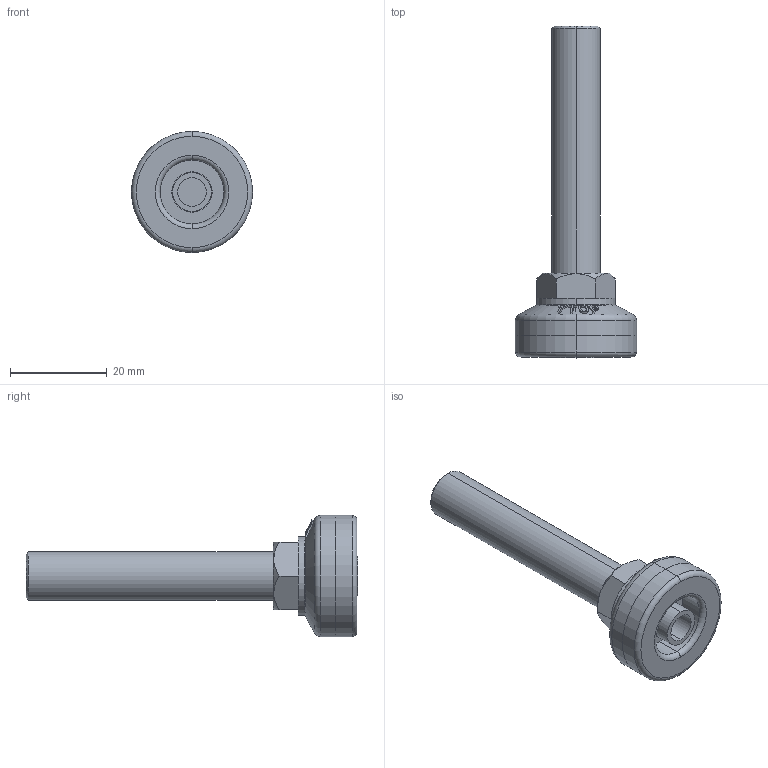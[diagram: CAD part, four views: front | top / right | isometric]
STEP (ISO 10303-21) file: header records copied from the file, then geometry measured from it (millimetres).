
FILE_DESCRIPTION (( 'STEP AP203' ), '1' );
FILE_NAME ('R-25-1051-TPU.STEP', '2020-09-11T02:20:23', ( '' ), ( '' ), 'SwSTEP 2.0', 'SolidWorks 2016', '' );
FILE_SCHEMA (( 'CONFIG_CONTROL_DESIGN' ));
Length unit declared in the file: millimetre
Products named in the file (4): S倰覃誹褐_25裔赽; S倰覃誹褐_25菁菜; R-25-1051-TPU; 穩諉蹟裝M10炵蹈_M10X51
Assembly tree (3 placements, depth 2):
  R-25-1051-TPU
    S倰覃誹褐_25菁菜
    S倰覃誹褐_25裔赽
    穩諉蹟裝M10炵蹈_M10X51
Bounding box: 25 x 68.5 x 25 mm (x, y, z)
Volume: 8549.9 mm3; surface area: 6596.4 mm2
Topology: 3 solids, 3 shells, 130 faces, 311 edges, 200 vertices
Faces by surface type: bspline 38, plane 36, cylinder 26, torus 16, cone 14
Entity records: 6930 total; most frequent: CARTESIAN_POINT 3750, ORIENTED_EDGE 622, DIRECTION 491, EDGE_CURVE 311, AXIS2_PLACEMENT_3D 206, VERTEX_POINT 200, EDGE_LOOP 147, ADVANCED_FACE 130
